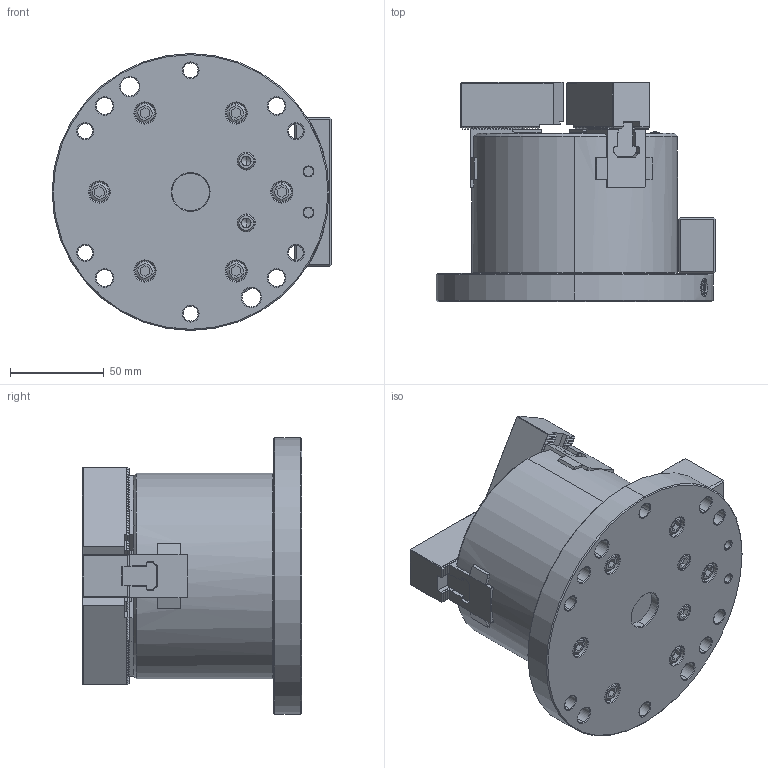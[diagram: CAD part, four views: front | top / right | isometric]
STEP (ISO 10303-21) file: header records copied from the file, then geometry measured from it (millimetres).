
FILE_DESCRIPTION (( 'STEP AP214' ), '1' );
FILE_NAME ('AS04_61P391915-2_UC.STEP', '2020-06-23T00:48:29', ( '' ), ( '' ), 'SwSTEP 2.0', 'SolidWorks 2017', '' );
FILE_SCHEMA (( 'AUTOMOTIVE_DESIGN' ));
Length unit declared in the file: millimetre
Products named in the file (5): Part1^61P330567 クミタテ; 61P400832-5_T僫僢僩; Bアナツキ M8×22; P31487-4_ソフトジョー; AS04_61P391915-2_UC
Assembly tree (13 placements, depth 2):
  AS04_61P391915-2_UC
    61P400832-5_T僫僢僩  x3
    P31487-4_ソフトジョー  x3
    Bアナツキ M8×22  x6
    Part1^61P330567 クミタテ
Bounding box: 149.5 x 117.2 x 148 mm (x, y, z)
Volume: 1073892.2 mm3; surface area: 138417 mm2
Topology: 17 solids, 52 shells, 3080 faces, 8237 edges, 5325 vertices
Faces by surface type: plane 2157, cylinder 523, cone 277, bspline 87, torus 32, sphere 4
Entity records: 81529 total; most frequent: CARTESIAN_POINT 18327, ORIENTED_EDGE 13376, DIRECTION 12541, EDGE_CURVE 6688, LINE 5037, VECTOR 5037, VERTEX_POINT 4324, AXIS2_PLACEMENT_3D 3752
